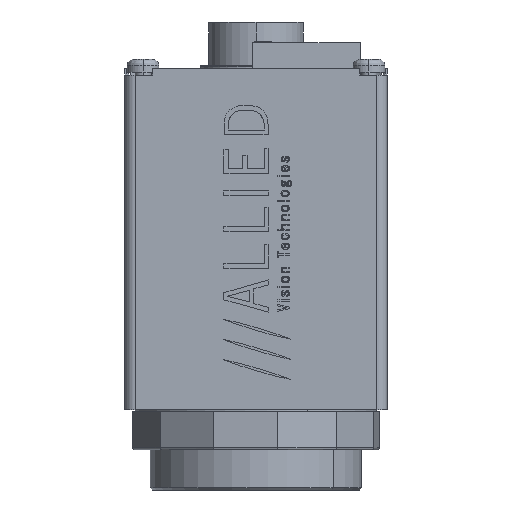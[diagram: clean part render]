
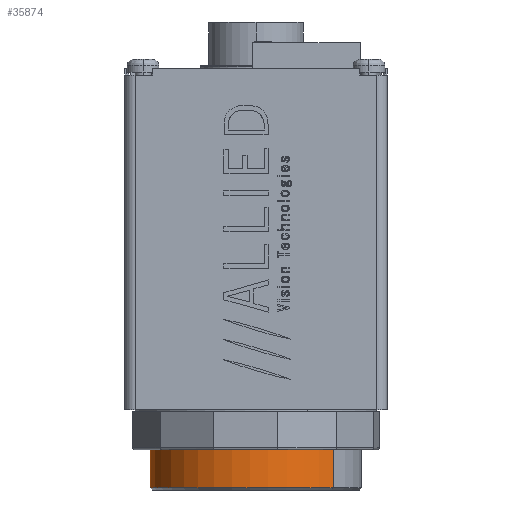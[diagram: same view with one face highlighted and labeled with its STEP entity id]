
A CAD part, left-side view. The second image highlights one B-rep face of the part: STEP entity #35874.
In plain terms, the highlighted cylindrical face has radius 13.335 mm (diameter 26.67 mm), a partial arc.
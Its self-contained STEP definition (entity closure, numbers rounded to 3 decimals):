
#4289 = CARTESIAN_POINT ( 'NONE',  ( 13.335, 0., 7.214 ) ) ;
#4786 = CARTESIAN_POINT ( 'NONE',  ( -13.335, 0., 7.214 ) ) ;
#5933 = DIRECTION ( 'NONE',  ( 0., 0., -1. ) ) ;
#8412 = EDGE_CURVE ( 'NONE', #121875, #29891, #139813, .T. ) ;
#8706 = EDGE_LOOP ( 'NONE', ( #68391, #175569, #50971, #34187 ) ) ;
#8836 = DIRECTION ( 'NONE',  ( 0., 0., 1. ) ) ;
#13044 = CARTESIAN_POINT ( 'NONE',  ( 13.335, 0., 13.386 ) ) ;
#14412 = CARTESIAN_POINT ( 'NONE',  ( 0., 0., 7.214 ) ) ;
#20300 = AXIS2_PLACEMENT_3D ( 'NONE', #87526, #5933, #101225 ) ;
#20467 = CARTESIAN_POINT ( 'NONE',  ( -13.335, 0., 13.386 ) ) ;
#25231 = EDGE_CURVE ( 'NONE', #64568, #29891, #44519, .T. ) ;
#27583 = DIRECTION ( 'NONE',  ( 0., 0., 1. ) ) ;
#27841 = DIRECTION ( 'NONE',  ( 0., 0., 1. ) ) ;
#28573 = CYLINDRICAL_SURFACE ( 'NONE', #169090, 13.335 ) ;
#29891 = VERTEX_POINT ( 'NONE', #13044 ) ;
#34187 = ORIENTED_EDGE ( 'NONE', *, *, #25231, .F. ) ;
#34945 = VECTOR ( 'NONE', #121370, 1000. ) ;
#35874 = ADVANCED_FACE ( 'NONE', ( #124153 ), #28573, .T. ) ;
#44150 = EDGE_CURVE ( 'NONE', #64568, #81403, #94080, .T. ) ;
#44519 = LINE ( 'NONE', #95649, #48831 ) ;
#48831 = VECTOR ( 'NONE', #27841, 1000. ) ;
#50971 = ORIENTED_EDGE ( 'NONE', *, *, #8412, .T. ) ;
#64568 = VERTEX_POINT ( 'NONE', #4289 ) ;
#68125 = AXIS2_PLACEMENT_3D ( 'NONE', #90434, #8836, #104125 ) ;
#68391 = ORIENTED_EDGE ( 'NONE', *, *, #44150, .T. ) ;
#73109 = EDGE_CURVE ( 'NONE', #81403, #121875, #143364, .T. ) ;
#81403 = VERTEX_POINT ( 'NONE', #4786 ) ;
#87526 = CARTESIAN_POINT ( 'NONE',  ( 0., 0., 13.386 ) ) ;
#90434 = CARTESIAN_POINT ( 'NONE',  ( 0., 0., 7.214 ) ) ;
#94080 = CIRCLE ( 'NONE', #68125, 13.335 ) ;
#95649 = CARTESIAN_POINT ( 'NONE',  ( 13.335, 0., 7.214 ) ) ;
#101225 = DIRECTION ( 'NONE',  ( 1., 0., 0. ) ) ;
#104125 = DIRECTION ( 'NONE',  ( 1., 0., 0. ) ) ;
#109658 = DIRECTION ( 'NONE',  ( 1., 0., 0. ) ) ;
#121370 = DIRECTION ( 'NONE',  ( 0., 0., 1. ) ) ;
#121875 = VERTEX_POINT ( 'NONE', #20467 ) ;
#124153 = FACE_OUTER_BOUND ( 'NONE', #8706, .T. ) ;
#139813 = CIRCLE ( 'NONE', #20300, 13.335 ) ;
#143364 = LINE ( 'NONE', #147449, #34945 ) ;
#147449 = CARTESIAN_POINT ( 'NONE',  ( -13.335, 0., 7.214 ) ) ;
#169090 = AXIS2_PLACEMENT_3D ( 'NONE', #14412, #27583, #109658 ) ;
#175569 = ORIENTED_EDGE ( 'NONE', *, *, #73109, .T. ) ;
